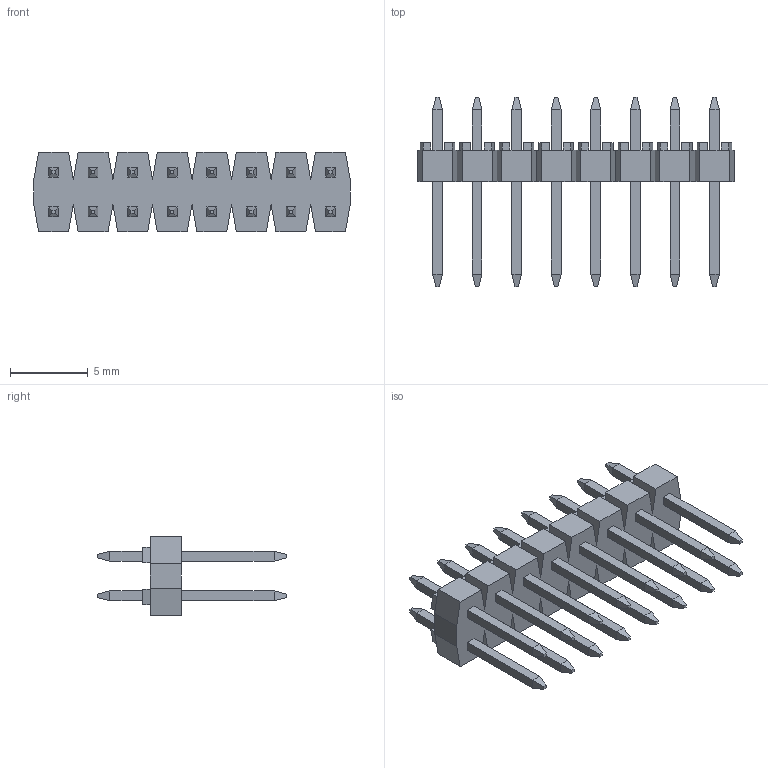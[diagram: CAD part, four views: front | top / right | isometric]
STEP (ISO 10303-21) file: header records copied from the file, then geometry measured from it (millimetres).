
FILE_DESCRIPTION((''),'2;1');
FILE_NAME('901310928','2014-01-20T',('me'),(''),'PRO/ENGINEER BY PARAMETRIC TECHNOLOGY CORPORATION, 2011490','PRO/ENGINEER BY PARAMETRIC TECHNOLOGY CORPORATION, 2011490','');
FILE_SCHEMA(('CONFIG_CONTROL_DESIGN'));
Length unit declared in the file: millimetre
Products named in the file (1): 901310928
Bounding box: 20.32 x 12.15 x 5.08 mm (x, y, z)
Volume: 255.9 mm3; surface area: 793.8 mm2
Topology: 1 solids, 1 shells, 500 faces, 1206 edges, 772 vertices
Faces by surface type: plane 500
Entity records: 14121 total; most frequent: CARTESIAN_POINT 2447, ORIENTED_EDGE 2348, DIRECTION 2240, VECTOR 1174, LINE 1174, EDGE_CURVE 1174, VERTEX_POINT 740, EDGE_LOOP 564
